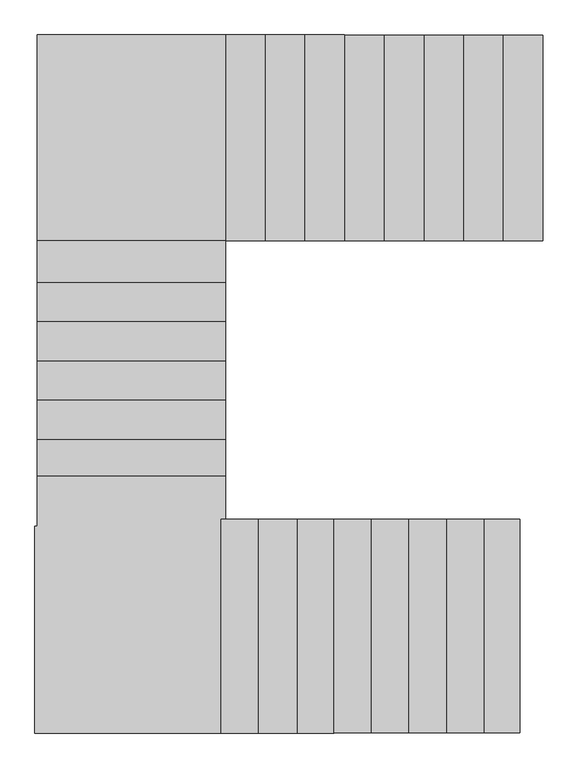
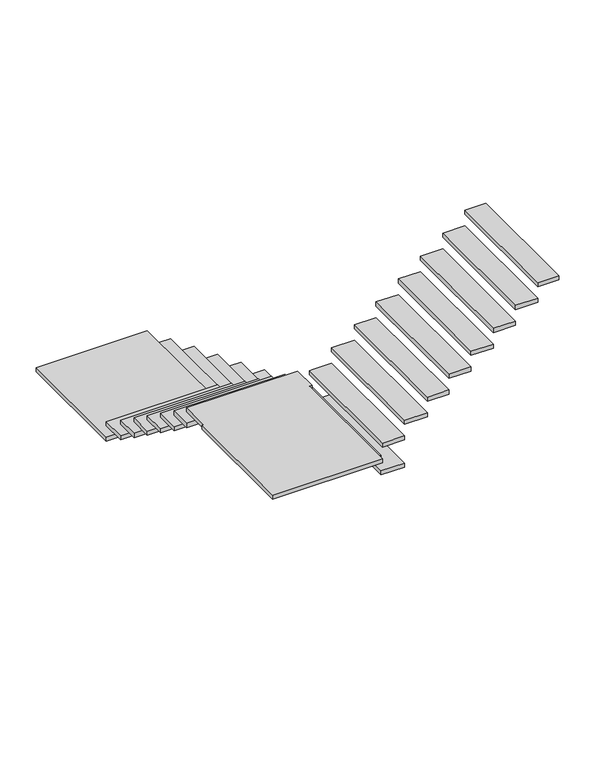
"""IFC4 building model written with IfcOpenShell, lengths in millimetres: stair flight geometry, Sin contrahuellas."""

import ifcopenshell
import ifcopenshell.guid

model = None  # the IFC model being written
_history = None  # IfcOwnerHistory: only IFC2X3 demands one
_inside = {}  # id of a spatial element -> (the spatial element, [elements in it])
_under = {}  # id of a project, library or spatial element -> (it, [spatial elements below it])
_declared = {}  # id of a project -> (the project, [libraries it declares])
_typed = {}  # id of a type object -> (the type object, [elements of that type])
_made_of = {}  # id of a material, layer set ... -> (it, [elements and type objects made of it])


def new_model(schema):
    """Start an empty IFC model of exactly this schema.

    Asked for "IFC4X3", IfcOpenShell would pick the latest addendum, in which some entities
    have other attributes; the version numbers below select the first issue.
    IFC2X3 requires an IfcOwnerHistory on every rooted entity: one is made here for all.
    """
    global model, _history
    if schema == "IFC4X3":
        model = ifcopenshell.file(schema_version=(4, 3, 0, 0))
    else:
        model = ifcopenshell.file(schema=schema)
    _inside.clear()
    _under.clear()
    _declared.clear()
    _typed.clear()
    _made_of.clear()
    _history = None
    if model.schema == "IFC2X3":
        org = make("IfcOrganization", Name="unknown")
        user = make(
            "IfcPersonAndOrganization",
            ThePerson=make("IfcPerson", FamilyName="unknown"),
            TheOrganization=org,
        )
        app = make(
            "IfcApplication",
            ApplicationDeveloper=org,
            Version="unknown",
            ApplicationFullName="unknown",
            ApplicationIdentifier="unknown",
        )
        _history = make(
            "IfcOwnerHistory",
            OwningUser=user,
            OwningApplication=app,
            ChangeAction="ADDED",
            CreationDate=0,
        )
    return model


def make(cls, **values):
    """One entity of the class cls with the attributes given. An attribute that is None is left unset."""
    return model.create_entity(
        cls, **{name: value for name, value in values.items() if value is not None}
    )


def rooted(cls, **values):
    """An entity with a GlobalId (a new one), such as an element, a storey or a relation."""
    return make(cls, GlobalId=ifcopenshell.guid.new(), OwnerHistory=_history, **values)


def si_unit(unit_type, name, prefix=None):
    """IfcSIUnit, for example si_unit("LENGTHUNIT", "METRE", prefix="MILLI")."""
    return make("IfcSIUnit", UnitType=unit_type, Prefix=prefix, Name=name)


def assignment(units):
    """IfcUnitAssignment: the units of a project."""
    return None if units is None else make("IfcUnitAssignment", Units=units)


def point(xyz):
    """IfcCartesianPoint."""
    return None if xyz is None else make("IfcCartesianPoint", Coordinates=xyz)


def direction(xyz):
    """IfcDirection."""
    return None if xyz is None else make("IfcDirection", DirectionRatios=xyz)


def frame(location, z_axis=None, x_axis=None):
    """IfcAxis2Placement3D, a coordinate frame: its origin and axes. An axis left out is left unset."""
    return make(
        "IfcAxis2Placement3D",
        Location=point(location),
        Axis=direction(z_axis),
        RefDirection=direction(x_axis),
    )


def origin():
    """The frame at (0, 0, 0) with its axes left unset."""
    return frame((0.0, 0.0, 0.0))


def place(relative_to, where):
    """IfcLocalPlacement: puts the frame where relative to a parent placement (None: the world)."""
    return make(
        "IfcLocalPlacement", PlacementRelTo=relative_to, RelativePlacement=where
    )


def context(
    kind, dimensions, precision=None, world=None, true_north=None, identifier=None
):
    """IfcGeometricRepresentationContext, for example the 3D "Model" context."""
    return make(
        "IfcGeometricRepresentationContext",
        ContextIdentifier=identifier,
        ContextType=kind,
        CoordinateSpaceDimension=dimensions,
        Precision=precision,
        WorldCoordinateSystem=world,
        TrueNorth=true_north,
    )


def project(units=None, contexts=None):
    """IfcProject with its units and contexts."""
    return rooted(
        "IfcProject",
        Name="project",
        RepresentationContexts=contexts,
        UnitsInContext=assignment(units),
    )


def spatial(cls, under=None, at=None, **own):
    """A site, building, storey or space (cls), placed at a placement, below another one or the project."""
    s = rooted(cls, ObjectPlacement=at, **own)
    if under is not None:
        _under.setdefault(under.id(), (under, []))[1].append(s)
    return s


def polyline(points):
    """IfcPolyline through the points."""
    return make("IfcPolyline", Points=[point(p) for p in points])


def outline(outer, holes=None, kind="AREA"):
    """IfcArbitraryClosedProfileDef: a profile drawn as a closed curve; with holes, ...WithVoids."""
    if holes is None:
        return make("IfcArbitraryClosedProfileDef", ProfileType=kind, OuterCurve=outer)
    return make(
        "IfcArbitraryProfileDefWithVoids",
        ProfileType=kind,
        OuterCurve=outer,
        InnerCurves=holes,
    )


def extrude(swept, where, along, depth):
    """IfcExtrudedAreaSolid: the profile swept, set in the frame where, extruded along a direction by depth."""
    return make(
        "IfcExtrudedAreaSolid",
        SweptArea=swept,
        Position=where,
        ExtrudedDirection=direction(along),
        Depth=depth,
    )


def shape(context_of_items, identifier, shape_type, items):
    """IfcShapeRepresentation: the items that make up one representation, for example the "Body"."""
    return make(
        "IfcShapeRepresentation",
        ContextOfItems=context_of_items,
        RepresentationIdentifier=identifier,
        RepresentationType=shape_type,
        Items=items,
    )


def source(mapping_origin, context_of_items, identifier, shape_type, items):
    """IfcRepresentationMap: a shape defined once, which mapped items show again and again."""
    return make(
        "IfcRepresentationMap",
        MappingOrigin=mapping_origin,
        MappedRepresentation=shape(context_of_items, identifier, shape_type, items),
    )


def transform(
    local_origin,
    x_axis=None,
    y_axis=None,
    z_axis=None,
    scale=None,
    scale2=None,
    scale3=None,
    uniform=True,
):
    """IfcCartesianTransformationOperator3D, or its non-uniform kind. x_axis, y_axis, z_axis: its Axis1, 2, 3."""
    if uniform:
        return make(
            "IfcCartesianTransformationOperator3D",
            Axis1=direction(x_axis),
            Axis2=direction(y_axis),
            LocalOrigin=point(local_origin),
            Scale=scale,
            Axis3=direction(z_axis),
        )
    return make(
        "IfcCartesianTransformationOperator3DnonUniform",
        Axis1=direction(x_axis),
        Axis2=direction(y_axis),
        LocalOrigin=point(local_origin),
        Scale=scale,
        Axis3=direction(z_axis),
        Scale2=scale2,
        Scale3=scale3,
    )


def mapped(mapping_source, mapping_target):
    """IfcMappedItem: shows the shape of a source again, moved by a transform."""
    return make(
        "IfcMappedItem", MappingSource=mapping_source, MappingTarget=mapping_target
    )


def made_of(thing, what):
    """Note that an element or type object is made of a material, layer set ...; save() writes the relation."""
    if what is not None:
        _made_of.setdefault(what.id(), (what, []))[1].append(thing)
    return thing


def element(
    cls,
    number,
    at=None,
    inside=None,
    cuts=None,
    type_object=None,
    material=None,
    context=None,
    identifier="Body",
    shape_type=None,
    held_by="IfcProductDefinitionShape",
    body=None,
    shapes=None,
    **own,
):
    """One element of the class cls, such as IfcWall. Its Tag is "e" and its number.

    at: its placement. inside: the storey or other place that contains it. cuts: it is an
    opening in that element (IfcRelVoidsElement). A single representation is given by context,
    identifier, shape_type and body (its items); several are given by shapes. held_by: the class
    of the entity that holds the representations. save() writes the other relations.
    """
    e = rooted(cls, Tag="e%d" % number, ObjectPlacement=at, **own)
    if body is not None:
        shapes = [shape(context, identifier, shape_type, body)]
    if shapes is not None:
        e.Representation = make(held_by, Representations=shapes)
    if inside is not None:
        _inside.setdefault(inside.id(), (inside, []))[1].append(e)
    if cuts is not None:
        rooted(
            "IfcRelVoidsElement", RelatingBuildingElement=cuts, RelatedOpeningElement=e
        )
    if type_object is not None:
        _typed.setdefault(type_object.id(), (type_object, []))[1].append(e)
    return made_of(e, material)


def aggregate(whole, parts):
    """IfcRelAggregates: a whole, such as a stair, and the parts it consists of."""
    return rooted("IfcRelAggregates", RelatingObject=whole, RelatedObjects=parts)


def save(model, path):
    """Write the relations noted so far, then the file.

    IfcRelAggregates (storeys below a building ...), IfcRelContainedInSpatialStructure (elements
    in a storey), IfcRelDefinesByType, IfcRelAssociatesMaterial and IfcRelDeclares: one each for
    every whole, place, type object, material and project.
    """
    for whole, parts in _under.values():
        aggregate(whole, parts)
    for where, things in _inside.values():
        rooted(
            "IfcRelContainedInSpatialStructure",
            RelatedElements=things,
            RelatingStructure=where,
        )
    for kind, things in _typed.values():
        rooted("IfcRelDefinesByType", RelatedObjects=things, RelatingType=kind)
    for what, things in _made_of.values():
        rooted("IfcRelAssociatesMaterial", RelatedObjects=things, RelatingMaterial=what)
    for by, libraries in _declared.values():
        rooted("IfcRelDeclares", RelatingContext=by, RelatedDefinitions=libraries)
    model.write(path)


def stair_flight_f9d3aef3(model_context):
    return source(origin(), model_context, "Body", "SweptSolid", [
        extrude(outline(polyline([(9488.8126262, 4844.6072273), (9488.8126262, 6244.6250843), (9758.8126262, 6244.6250843), (9758.8126262, 4844.6072273), (9488.8126262, 4844.6072273)])), frame((0.0, 0.0, 5080.0), z_axis=(0.0, 0.0, 1.0), x_axis=(1.0, 0.0, 0.0)), (0.0, 0.0, 1.0), 50.0),
        extrude(outline(polyline([(9218.8126262, 4844.6072273), (9218.8126262, 6244.6250843), (9488.8126262, 6244.6250843), (9488.8126262, 4844.6072273), (9218.8126262, 4844.6072273)])), frame((0.0, 0.0, 5270.0), z_axis=(0.0, 0.0, 1.0), x_axis=(1.0, 0.0, 0.0)), (0.0, 0.0, 1.0), 50.0),
        extrude(outline(polyline([(8948.8126262, 4844.6072273), (8948.8126262, 6244.6250843), (9218.8126262, 6244.6250843), (9218.8126262, 4844.6072273), (8948.8126262, 4844.6072273)])), frame((0.0, 0.0, 5460.0), z_axis=(0.0, 0.0, 1.0), x_axis=(1.0, 0.0, 0.0)), (0.0, 0.0, 1.0), 50.0),
        extrude(outline(polyline([(8678.8126262, 4844.6072273), (8678.8126262, 6244.6250843), (8948.8126262, 6244.6250843), (8948.8126262, 4844.6072273), (8678.8126262, 4844.6072273)])), frame((0.0, 0.0, 5650.0), z_axis=(0.0, 0.0, 1.0), x_axis=(1.0, 0.0, 0.0)), (0.0, 0.0, 1.0), 50.0),
        extrude(outline(polyline([(8408.8126262, 4844.6072273), (8408.8126262, 6244.6250843), (8678.8126262, 6244.6250843), (8678.8126262, 4844.6072273), (8408.8126262, 4844.6072273)])), frame((0.0, 0.0, 5840.0), z_axis=(0.0, 0.0, 1.0), x_axis=(1.0, 0.0, 0.0)), (0.0, 0.0, 1.0), 50.0),
        extrude(outline(polyline([(8138.8126262, 4844.6072273), (8138.8126262, 6244.6250843), (8408.8126262, 6244.6250843), (8408.8126262, 4844.6072273), (8138.8126262, 4844.6072273)])), frame((0.0, 0.0, 6030.0), z_axis=(0.0, 0.0, 1.0), x_axis=(1.0, 0.0, 0.0)), (0.0, 0.0, 1.0), 50.0),
        extrude(outline(polyline([(7868.8126262, 4844.6072273), (7868.8126262, 6244.6250843), (8138.8126262, 6244.6250843), (8138.8126262, 4844.6072273), (7868.8126262, 4844.6072273)])), frame((0.0, 0.0, 6220.0), z_axis=(0.0, 0.0, 1.0), x_axis=(1.0, 0.0, 0.0)), (0.0, 0.0, 1.0), 50.0),
        extrude(outline(polyline([(7599.5983807, 4844.6072273), (7599.5983807, 6244.6250843), (7868.8126262, 6244.6250843), (7868.8126262, 4844.6072273), (7599.5983807, 4844.6072273)])), frame((0.0, 0.0, 6410.0), z_axis=(0.0, 0.0, 1.0), x_axis=(1.0, 0.0, 0.0)), (0.0, 0.0, 1.0), 50.0),
        extrude(outline(polyline([(7599.5983807, 4844.6072273), (6318.8126262, 4844.6072273), (6318.8126262, 6244.6250843), (7599.5983807, 6244.6250843), (7599.5983807, 4844.6072273)])), frame((0.0, 0.0, 6600.0), z_axis=(0.0, 0.0, 1.0), x_axis=(1.0, 0.0, 0.0)), (0.0, 0.0, 1.0), 50.0),
        extrude(outline(polyline([(7824.9401774, 2951.7500845), (7824.9401774, 1496.342606), (7569.346531, 1496.342606), (7569.346531, 2951.7500845), (7599.5983807, 2951.7500845), (7824.9401774, 2951.7500845)])), frame((0.0, 0.0, 8120.0), z_axis=(0.0, 0.0, 1.0), x_axis=(1.0, 0.0, 0.0)), (0.0, 0.0, 1.0), 50.0),
        extrude(outline(polyline([(8088.3687917, 2951.7500845), (8088.3687917, 1496.342606), (7824.9401774, 1496.342606), (7824.9401774, 2951.7500845), (8088.3687917, 2951.7500845)])), frame((0.0, 0.0, 8310.0), z_axis=(0.0, 0.0, 1.0), x_axis=(1.0, 0.0, 0.0)), (0.0, 0.0, 1.0), 50.0),
        extrude(outline(polyline([(7599.5983807, 2951.7500845), (7569.346531, 2951.7500845), (7569.346531, 1496.342606), (6301.8126262, 1496.342606), (6301.8126262, 2901.7500845), (6318.8126262, 2901.7500845), (6318.8126262, 3241.7500845), (7599.5983807, 3241.7500845), (7599.5983807, 2951.7500845)])), frame((0.0, 0.0, 7930.0), z_axis=(0.0, 0.0, 1.0), x_axis=(1.0, 0.0, 0.0)), (0.0, 0.0, 1.0), 50.0),
        extrude(outline(polyline([(9602.8126262, 2951.7500845), (9602.8126262, 1496.342606), (9361.8126262, 1496.342606), (9361.8126262, 2951.7500845), (9602.8126262, 2951.7500845)])), frame((0.0, 0.0, 9450.0), z_axis=(0.0, 0.0, 1.0), x_axis=(1.0, 0.0, 0.0)), (0.0, 0.0, 1.0), 50.0),
        extrude(outline(polyline([(7599.5983807, 4560.321513), (6318.8126262, 4560.321513), (6318.8126262, 4844.6072273), (7599.5983807, 4844.6072273), (7599.5983807, 4560.321513)])), frame((0.0, 0.0, 6790.0), z_axis=(0.0, 0.0, 1.0), x_axis=(1.0, 0.0, 0.0)), (0.0, 0.0, 1.0), 50.0),
        extrude(outline(polyline([(7599.5983807, 4293.1786559), (6318.8126262, 4293.1786559), (6318.8126262, 4560.321513), (7599.5983807, 4560.321513), (7599.5983807, 4293.1786559)])), frame((0.0, 0.0, 6980.0), z_axis=(0.0, 0.0, 1.0), x_axis=(1.0, 0.0, 0.0)), (0.0, 0.0, 1.0), 50.0),
        extrude(outline(polyline([(7599.5983807, 4026.0357987), (6318.8126262, 4026.0357987), (6318.8126262, 4293.1786559), (7599.5983807, 4293.1786559), (7599.5983807, 4026.0357987)])), frame((0.0, 0.0, 7170.0), z_axis=(0.0, 0.0, 1.0), x_axis=(1.0, 0.0, 0.0)), (0.0, 0.0, 1.0), 50.0),
        extrude(outline(polyline([(7599.5983807, 3758.8929416), (6318.8126262, 3758.8929416), (6318.8126262, 4026.0357987), (7599.5983807, 4026.0357987), (7599.5983807, 3758.8929416)])), frame((0.0, 0.0, 7360.0), z_axis=(0.0, 0.0, 1.0), x_axis=(1.0, 0.0, 0.0)), (0.0, 0.0, 1.0), 50.0),
        extrude(outline(polyline([(7599.5983807, 3491.7500845), (6318.8126262, 3491.7500845), (6318.8126262, 3758.8929416), (7599.5983807, 3758.8929416), (7599.5983807, 3491.7500845)])), frame((0.0, 0.0, 7550.0), z_axis=(0.0, 0.0, 1.0), x_axis=(1.0, 0.0, 0.0)), (0.0, 0.0, 1.0), 50.0),
        extrude(outline(polyline([(8337.2309937, 2951.7500845), (8337.2309937, 1496.342606), (8088.3687917, 1496.342606), (8088.3687917, 2951.7500845), (8337.2309937, 2951.7500845)])), frame((0.0, 0.0, 8500.0), z_axis=(0.0, 0.0, 1.0), x_axis=(1.0, 0.0, 0.0)), (0.0, 0.0, 1.0), 50.0),
        extrude(outline(polyline([(8593.3764018, 2951.7500845), (8593.3764018, 1496.342606), (8337.2309937, 1496.342606), (8337.2309937, 2951.7500845), (8593.3764018, 2951.7500845)])), frame((0.0, 0.0, 8690.0), z_axis=(0.0, 0.0, 1.0), x_axis=(1.0, 0.0, 0.0)), (0.0, 0.0, 1.0), 50.0),
        extrude(outline(polyline([(8849.5218099, 2951.7500845), (8849.5218099, 1496.342606), (8593.3764018, 1496.342606), (8593.3764018, 2951.7500845), (8849.5218099, 2951.7500845)])), frame((0.0, 0.0, 8880.0), z_axis=(0.0, 0.0, 1.0), x_axis=(1.0, 0.0, 0.0)), (0.0, 0.0, 1.0), 50.0),
        extrude(outline(polyline([(9105.6672181, 2951.7500845), (9105.6672181, 1496.342606), (8849.5218099, 1496.342606), (8849.5218099, 2951.7500845), (9105.6672181, 2951.7500845)])), frame((0.0, 0.0, 9070.0), z_axis=(0.0, 0.0, 1.0), x_axis=(1.0, 0.0, 0.0)), (0.0, 0.0, 1.0), 50.0),
        extrude(outline(polyline([(9361.8126262, 2951.7500845), (9361.8126262, 1496.342606), (9105.6672181, 1496.342606), (9105.6672181, 2951.7500845), (9361.8126262, 2951.7500845)])), frame((0.0, 0.0, 9260.0), z_axis=(0.0, 0.0, 1.0), x_axis=(1.0, 0.0, 0.0)), (0.0, 0.0, 1.0), 50.0),
        extrude(outline(polyline([(7599.5983807, 3241.7500845), (6318.8126262, 3241.7500845), (6318.8126262, 3491.7500845), (7599.5983807, 3491.7500845), (7599.5983807, 3241.7500845)])), frame((0.0, 0.0, 7740.0), z_axis=(0.0, 0.0, 1.0), x_axis=(1.0, 0.0, 0.0)), (0.0, 0.0, 1.0), 50.0),
    ])


if __name__ == "__main__":
    model = new_model("IFC4")
    model_context = context("Model", 3, world=origin())
    ifc_project = project(units=[si_unit("LENGTHUNIT", "METRE", prefix="MILLI")], contexts=[model_context])
    site = spatial("IfcSite", under=ifc_project)
    building = spatial("IfcBuilding", under=site)
    placement = place(None, origin())
    stair_flight_shape = stair_flight_f9d3aef3(model_context)
    element("IfcStairFlight", 1, ObjectType="Sin contrahuellas", at=placement, inside=building, context=model_context, shape_type="MappedRepresentation", body=[
        mapped(stair_flight_shape, transform((0.0, 0.0, 0.0), x_axis=(1.0, 0.0, 0.0), y_axis=(0.0, 1.0, 0.0), z_axis=(0.0, 0.0, 1.0))),
    ])
    save(model, "model.ifc")
